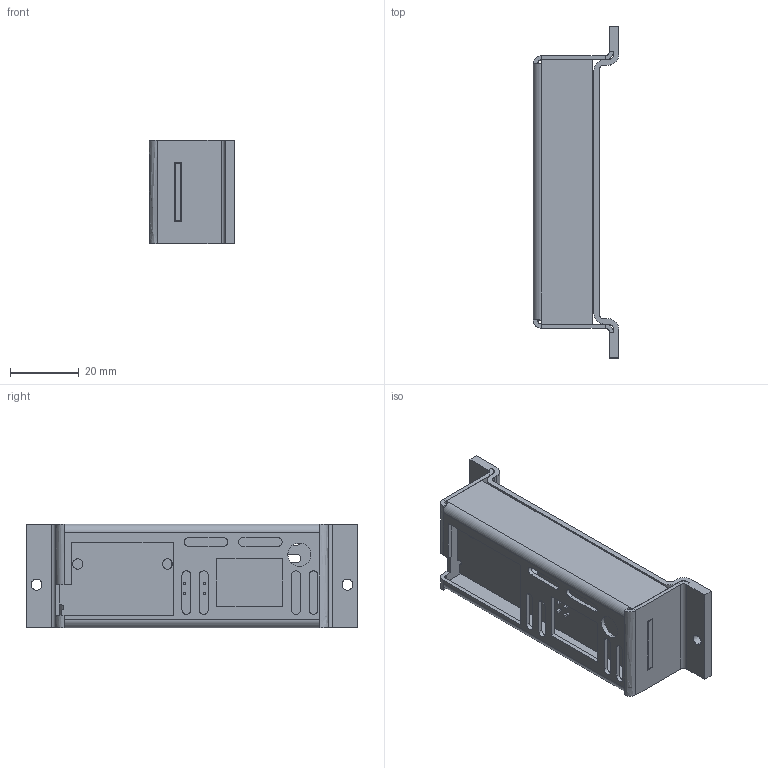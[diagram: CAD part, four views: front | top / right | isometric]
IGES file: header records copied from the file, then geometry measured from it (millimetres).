
Start section:  PTC IGES file: cu_scxi-1357_1-slot.igs
Global section: file name: cu_scxi-1357_1-slot.igs; native system: Pro/ENGINEER by Parametric Technology Corporation; preprocessor: 2010230; author: jjorden; organization: Unknown; date: 20110816.103636; units: inch
Bounding box: 24.89 x 96.77 x 30.18 mm (x, y, z)
Surface area: 23323.2 mm2 (no closed solid volume)
Topology: 0 solids, 0 shells, 526 faces, 2772 edges, 2772 vertices
Faces by surface type: bspline 454, revolution 72
